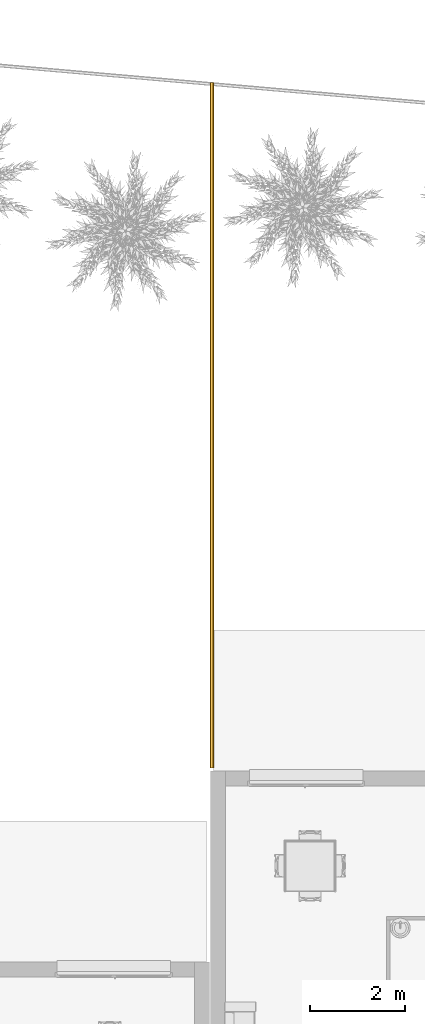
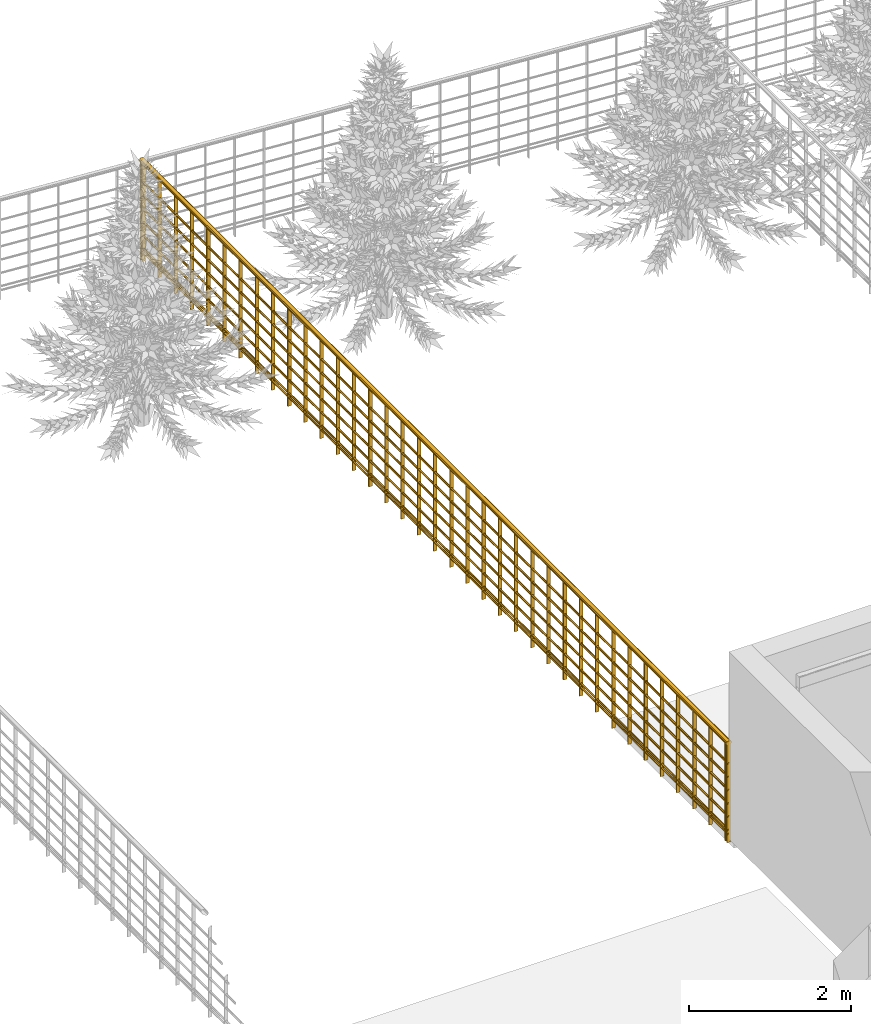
# One storey, part 28 of 33: 1 railing.
"""IFC2X3 building model written with IfcOpenShell, lengths in metres."""

from ifc_helpers import new_model, entity, si_unit, converted_unit, derived_unit, direction, frame, frame_2d, origin, origin_2d_with_axis, place, context, subcontext, project, spatial, polyline, rectangle, circle, outline, extrude, material, material_list, element, save


model = new_model("IFC2X3")

# Units and contexts
model_context = context("Model", 3, precision=1e-05, world=origin(), true_north=direction((6.12303176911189e-17, 1.0)))
context_of_model = context(None, 3, precision=1e-05, world=origin(), true_north=direction((6.12303176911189e-17, 1.0)))
body_context = subcontext(model_context, "Body", "Model", "MODEL_VIEW")
ifc_project = project(units=[si_unit("LENGTHUNIT", "METRE"), si_unit("AREAUNIT", "SQUARE_METRE"), si_unit("VOLUMEUNIT", "CUBIC_METRE"), converted_unit("PLANEANGLEUNIT", "DEGREE", entity("IfcRatioMeasure", 0.0174532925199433), si_unit("PLANEANGLEUNIT", "RADIAN"), dimensions=[0, 0, 0, 0, 0, 0, 0]), si_unit("MASSUNIT", "GRAM", prefix="KILO"), si_unit("TIMEUNIT", "SECOND"), si_unit("FREQUENCYUNIT", "HERTZ"), si_unit("THERMODYNAMICTEMPERATUREUNIT", "DEGREE_CELSIUS"), derived_unit("THERMALTRANSMITTANCEUNIT", [(si_unit("MASSUNIT", "GRAM", prefix="KILO"), 1), (si_unit("THERMODYNAMICTEMPERATUREUNIT", "KELVIN"), -1), (si_unit("TIMEUNIT", "SECOND"), -3)]), derived_unit("VOLUMETRICFLOWRATEUNIT", [(si_unit("LENGTHUNIT", "METRE"), 3), (si_unit("TIMEUNIT", "SECOND"), -1)]), si_unit("ELECTRICCURRENTUNIT", "AMPERE"), si_unit("ELECTRICVOLTAGEUNIT", "VOLT"), si_unit("POWERUNIT", "WATT"), si_unit("FORCEUNIT", "NEWTON", prefix="KILO"), si_unit("ILLUMINANCEUNIT", "LUX"), si_unit("LUMINOUSFLUXUNIT", "LUMEN"), si_unit("LUMINOUSINTENSITYUNIT", "CANDELA"), si_unit("PRESSUREUNIT", "PASCAL")], contexts=[model_context, context_of_model])

# Site, building, storey
site_placement = place(None, origin())
site = spatial("IfcSite", under=ifc_project, at=site_placement, Name="Surface", CompositionType="ELEMENT")
building_placement = place(site_placement, origin())
building = spatial("IfcBuilding", under=site, at=building_placement, CompositionType="ELEMENT")
storey_placement = place(building_placement, origin())
storey = spatial("IfcBuildingStorey", under=building, at=storey_placement, Name="Plan des fondations  Maisons 1 et 2", CompositionType="ELEMENT", Elevation=0.0)

# Railing
ifc_material_1 = material(Name="Bois")
ifc_material_2 = material(Name="Finition Peinture Grise")
ifc_material_list = material_list([ifc_material_1, ifc_material_2])
railing_placement = place(building_placement, origin())
element("IfcRailing", 1, at=railing_placement, inside=storey, material=ifc_material_list, Name="Garde-corps:Type Bateau 1,50 m", ObjectType="Garde-corps:Type Bateau 1,50 m", PredefinedType="NOTDEFINED", context=body_context, shape_type="SweptSolid", body=[
    extrude(rectangle(XDim=0.0499999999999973, YDim=0.0139999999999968, at=frame_2d((4.32986979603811e-15, 0.0), x_axis=(1.0, 0.0))), frame((76.3372847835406, 106.978195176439, -0.1), z_axis=(0.0, 0.0, 1.0), x_axis=(-1.0, 0.0, 0.0)), (0.0, 0.0, 1.0), 1.46984653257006),
    extrude(rectangle(XDim=0.0499999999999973, YDim=0.0139999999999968, at=frame_2d((4.32986979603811e-15, 0.0), x_axis=(1.0, 0.0))), frame((76.3372847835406, 106.578195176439, -0.1), z_axis=(0.0, 0.0, 1.0), x_axis=(-1.0, 0.0, 0.0)), (0.0, 0.0, 1.0), 1.46984653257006),
    extrude(rectangle(XDim=0.0499999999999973, YDim=0.0139999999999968, at=frame_2d((4.32986979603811e-15, 0.0), x_axis=(1.0, 0.0))), frame((76.3372847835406, 106.178195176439, -0.1), z_axis=(0.0, 0.0, 1.0), x_axis=(-1.0, 0.0, 0.0)), (0.0, 0.0, 1.0), 1.46984653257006),
    extrude(rectangle(XDim=0.0499999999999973, YDim=0.0139999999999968, at=frame_2d((4.32986979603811e-15, 0.0), x_axis=(1.0, 0.0))), frame((76.3372847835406, 105.778195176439, -0.1), z_axis=(0.0, 0.0, 1.0), x_axis=(-1.0, 0.0, 0.0)), (0.0, 0.0, 1.0), 1.46984653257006),
    extrude(rectangle(XDim=0.0499999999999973, YDim=0.0139999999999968, at=frame_2d((4.32986979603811e-15, 0.0), x_axis=(1.0, 0.0))), frame((76.3372847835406, 105.378195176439, -0.1), z_axis=(0.0, 0.0, 1.0), x_axis=(-1.0, 0.0, 0.0)), (0.0, 0.0, 1.0), 1.46984653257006),
    extrude(rectangle(XDim=0.0499999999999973, YDim=0.0139999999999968, at=frame_2d((4.32986979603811e-15, 0.0), x_axis=(1.0, 0.0))), frame((76.3372847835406, 104.978195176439, -0.1), z_axis=(0.0, 0.0, 1.0), x_axis=(-1.0, 0.0, 0.0)), (0.0, 0.0, 1.0), 1.46984653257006),
    extrude(rectangle(XDim=0.0499999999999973, YDim=0.0139999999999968, at=frame_2d((-4.32986979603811e-15, 1.73259843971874e-14), x_axis=(1.0, 0.0))), frame((76.3372847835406, 104.578195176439, -0.1), z_axis=(0.0, 0.0, 1.0), x_axis=(-1.0, 0.0, 0.0)), (0.0, 0.0, 1.0), 1.46984653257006),
    extrude(rectangle(XDim=0.0499999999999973, YDim=0.0139999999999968, at=frame_2d((-4.32986979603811e-15, 0.0), x_axis=(1.0, 0.0))), frame((76.3372847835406, 104.178195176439, -0.1), z_axis=(0.0, 0.0, 1.0), x_axis=(-1.0, 0.0, 0.0)), (0.0, 0.0, 1.0), 1.46984653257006),
    extrude(rectangle(XDim=0.0499999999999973, YDim=0.0139999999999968, at=frame_2d((-4.32986979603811e-15, 0.0), x_axis=(1.0, 0.0))), frame((76.3372847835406, 103.778195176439, -0.1), z_axis=(0.0, 0.0, 1.0), x_axis=(-1.0, 0.0, 0.0)), (0.0, 0.0, 1.0), 1.46984653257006),
    extrude(rectangle(XDim=0.0499999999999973, YDim=0.0139999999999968, at=frame_2d((-4.32986979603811e-15, 0.0), x_axis=(1.0, 0.0))), frame((76.3372847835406, 103.378195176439, -0.1), z_axis=(0.0, 0.0, 1.0), x_axis=(-1.0, 0.0, 0.0)), (0.0, 0.0, 1.0), 1.46984653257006),
    extrude(rectangle(XDim=0.0499999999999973, YDim=0.0139999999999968, at=frame_2d((-4.32986979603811e-15, 0.0), x_axis=(1.0, 0.0))), frame((76.3372847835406, 102.978195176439, -0.1), z_axis=(0.0, 0.0, 1.0), x_axis=(-1.0, 0.0, 0.0)), (0.0, 0.0, 1.0), 1.46984653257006),
    extrude(rectangle(XDim=0.0499999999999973, YDim=0.0139999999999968, at=frame_2d((-4.32986979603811e-15, 0.0), x_axis=(1.0, 0.0))), frame((76.3372847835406, 102.578195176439, -0.1), z_axis=(0.0, 0.0, 1.0), x_axis=(-1.0, 0.0, 0.0)), (0.0, 0.0, 1.0), 1.46984653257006),
    extrude(rectangle(XDim=0.0499999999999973, YDim=0.0139999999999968, at=frame_2d((-4.32986979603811e-15, 0.0), x_axis=(1.0, 0.0))), frame((76.3372847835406, 102.178195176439, -0.1), z_axis=(0.0, 0.0, 1.0), x_axis=(-1.0, 0.0, 0.0)), (0.0, 0.0, 1.0), 1.46984653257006),
    extrude(rectangle(XDim=0.0499999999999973, YDim=0.0139999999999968, at=frame_2d((-4.32986979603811e-15, 0.0), x_axis=(1.0, 0.0))), frame((76.3372847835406, 101.778195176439, -0.1), z_axis=(0.0, 0.0, 1.0), x_axis=(-1.0, 0.0, 0.0)), (0.0, 0.0, 1.0), 1.46984653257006),
    extrude(rectangle(XDim=0.0499999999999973, YDim=0.0139999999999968, at=frame_2d((-4.32986979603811e-15, 0.0), x_axis=(1.0, 0.0))), frame((76.3372847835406, 101.378195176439, -0.1), z_axis=(0.0, 0.0, 1.0), x_axis=(-1.0, 0.0, 0.0)), (0.0, 0.0, 1.0), 1.46984653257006),
    extrude(rectangle(XDim=0.0499999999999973, YDim=0.0139999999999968, at=frame_2d((-4.32986979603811e-15, 0.0), x_axis=(1.0, 0.0))), frame((76.3372847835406, 100.978195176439, -0.1), z_axis=(0.0, 0.0, 1.0), x_axis=(-1.0, 0.0, 0.0)), (0.0, 0.0, 1.0), 1.46984653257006),
    extrude(rectangle(XDim=0.0499999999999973, YDim=0.0139999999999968, at=frame_2d((-4.32986979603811e-15, 0.0), x_axis=(1.0, 0.0))), frame((76.3372847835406, 100.578195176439, -0.1), z_axis=(0.0, 0.0, 1.0), x_axis=(-1.0, 0.0, 0.0)), (0.0, 0.0, 1.0), 1.46984653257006),
    extrude(rectangle(XDim=0.0499999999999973, YDim=0.0139999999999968, at=frame_2d((-4.32986979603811e-15, 0.0), x_axis=(1.0, 0.0))), frame((76.3372847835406, 100.178195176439, -0.1), z_axis=(0.0, 0.0, 1.0), x_axis=(-1.0, 0.0, 0.0)), (0.0, 0.0, 1.0), 1.46984653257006),
    extrude(rectangle(XDim=0.0499999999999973, YDim=0.0139999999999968, at=frame_2d((4.32986979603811e-15, 0.0), x_axis=(1.0, 0.0))), frame((76.3372847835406, 99.7781951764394, -0.1), z_axis=(0.0, 0.0, 1.0), x_axis=(-1.0, 0.0, 0.0)), (0.0, 0.0, 1.0), 1.46984653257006),
    extrude(rectangle(XDim=0.0499999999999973, YDim=0.0139999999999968, at=frame_2d((4.32986979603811e-15, 0.0), x_axis=(1.0, 0.0))), frame((76.3372847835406, 99.3781951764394, -0.1), z_axis=(0.0, 0.0, 1.0), x_axis=(-1.0, 0.0, 0.0)), (0.0, 0.0, 1.0), 1.46984653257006),
    extrude(rectangle(XDim=0.0499999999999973, YDim=0.0139999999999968, at=frame_2d((4.32986979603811e-15, 0.0), x_axis=(1.0, 0.0))), frame((76.3372847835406, 98.9781951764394, -0.1), z_axis=(0.0, 0.0, 1.0), x_axis=(-1.0, 0.0, 0.0)), (0.0, 0.0, 1.0), 1.46984653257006),
    extrude(rectangle(XDim=0.0499999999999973, YDim=0.0139999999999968, at=frame_2d((4.32986979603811e-15, 0.0), x_axis=(1.0, 0.0))), frame((76.3372847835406, 98.5781951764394, -0.1), z_axis=(0.0, 0.0, 1.0), x_axis=(-1.0, 0.0, 0.0)), (0.0, 0.0, 1.0), 1.46984653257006),
    extrude(rectangle(XDim=0.0499999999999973, YDim=0.0139999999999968, at=frame_2d((4.32986979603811e-15, 0.0), x_axis=(1.0, 0.0))), frame((76.3372847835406, 98.1781951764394, -0.1), z_axis=(0.0, 0.0, 1.0), x_axis=(-1.0, 0.0, 0.0)), (0.0, 0.0, 1.0), 1.46984653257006),
    extrude(rectangle(XDim=0.0499999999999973, YDim=0.0139999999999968, at=frame_2d((4.32986979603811e-15, 0.0), x_axis=(1.0, 0.0))), frame((76.3372847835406, 97.7781951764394, -0.1), z_axis=(0.0, 0.0, 1.0), x_axis=(-1.0, 0.0, 0.0)), (0.0, 0.0, 1.0), 1.46984653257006),
    extrude(rectangle(XDim=0.0499999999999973, YDim=0.0139999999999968, at=frame_2d((4.32986979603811e-15, 0.0), x_axis=(1.0, 0.0))), frame((76.3372847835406, 97.3781951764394, -0.1), z_axis=(0.0, 0.0, 1.0), x_axis=(-1.0, 0.0, 0.0)), (0.0, 0.0, 1.0), 1.46984653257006),
    extrude(rectangle(XDim=0.0499999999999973, YDim=0.0139999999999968, at=frame_2d((4.32986979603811e-15, 0.0), x_axis=(1.0, 0.0))), frame((76.3372847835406, 96.9781951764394, -0.1), z_axis=(0.0, 0.0, 1.0), x_axis=(-1.0, 0.0, 0.0)), (0.0, 0.0, 1.0), 1.46984653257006),
    extrude(rectangle(XDim=0.0499999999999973, YDim=0.0139999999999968, at=frame_2d((4.32986979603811e-15, 0.0), x_axis=(1.0, 0.0))), frame((76.3372847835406, 96.5781951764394, -0.1), z_axis=(0.0, 0.0, 1.0), x_axis=(-1.0, 0.0, 0.0)), (0.0, 0.0, 1.0), 1.46984653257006),
    extrude(rectangle(XDim=0.0499999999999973, YDim=0.0139999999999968, at=frame_2d((4.32986979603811e-15, 0.0), x_axis=(1.0, 0.0))), frame((76.3372847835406, 96.1781951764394, -0.1), z_axis=(0.0, 0.0, 1.0), x_axis=(-1.0, 0.0, 0.0)), (0.0, 0.0, 1.0), 1.46984653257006),
    extrude(rectangle(XDim=0.0499999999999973, YDim=0.0139999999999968, at=frame_2d((4.32986979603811e-15, 0.0), x_axis=(1.0, 0.0))), frame((76.3372847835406, 95.7781951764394, -0.1), z_axis=(0.0, 0.0, 1.0), x_axis=(-1.0, 0.0, 0.0)), (0.0, 0.0, 1.0), 1.46984653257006),
    extrude(rectangle(XDim=0.0499999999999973, YDim=0.0139999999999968, at=frame_2d((4.32986979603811e-15, 0.0), x_axis=(1.0, 0.0))), frame((76.3372847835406, 95.3781951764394, -0.1), z_axis=(0.0, 0.0, 1.0), x_axis=(-1.0, 0.0, 0.0)), (0.0, 0.0, 1.0), 1.46984653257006),
    extrude(rectangle(XDim=0.0499999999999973, YDim=0.0139999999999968, at=frame_2d((-4.32986979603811e-15, 0.0), x_axis=(1.0, 0.0))), frame((76.3372847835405, 94.9781951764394, -0.1), z_axis=(0.0, 0.0, 1.0), x_axis=(-1.0, 0.0, 0.0)), (0.0, 0.0, 1.0), 1.46984653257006),
    extrude(rectangle(XDim=0.0499999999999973, YDim=0.0139999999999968, at=frame_2d((-4.32986979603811e-15, 0.0), x_axis=(1.0, 0.0))), frame((76.3372847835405, 94.5781951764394, -0.1), z_axis=(0.0, 0.0, 1.0), x_axis=(-1.0, 0.0, 0.0)), (0.0, 0.0, 1.0), 1.46984653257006),
    extrude(rectangle(XDim=0.0499999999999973, YDim=0.0139999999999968, at=frame_2d((-4.32986979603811e-15, 0.0), x_axis=(1.0, 0.0))), frame((76.3372847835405, 94.1781951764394, -0.1), z_axis=(0.0, 0.0, 1.0), x_axis=(-1.0, 0.0, 0.0)), (0.0, 0.0, 1.0), 1.46984653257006),
    extrude(rectangle(XDim=0.0499999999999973, YDim=0.0139999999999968, at=frame_2d((-4.32986979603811e-15, 0.0), x_axis=(1.0, 0.0))), frame((76.3372847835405, 93.7781951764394, -0.1), z_axis=(0.0, 0.0, 1.0), x_axis=(-1.0, 0.0, 0.0)), (0.0, 0.0, 1.0), 1.46984653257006),
    extrude(rectangle(XDim=0.0499999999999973, YDim=0.0139999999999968, at=frame_2d((-4.32986979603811e-15, 0.0), x_axis=(1.0, 0.0))), frame((76.3372847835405, 93.3781951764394, -0.1), z_axis=(0.0, 0.0, 1.0), x_axis=(-1.0, 0.0, 0.0)), (0.0, 0.0, 1.0), 1.46984653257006),
    extrude(rectangle(XDim=0.0499999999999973, YDim=0.0139999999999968, at=frame_2d((-4.32986979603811e-15, 0.0), x_axis=(1.0, 0.0))), frame((76.3372847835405, 92.9781951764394, -0.1), z_axis=(0.0, 0.0, 1.0), x_axis=(-1.0, 0.0, 0.0)), (0.0, 0.0, 1.0), 1.46984653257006),
    extrude(rectangle(XDim=0.0499999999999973, YDim=0.0139999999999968, at=frame_2d((-4.32986979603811e-15, 0.0), x_axis=(1.0, 0.0))), frame((76.3372847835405, 92.5781951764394, -0.1), z_axis=(0.0, 0.0, 1.0), x_axis=(-1.0, 0.0, 0.0)), (0.0, 0.0, 1.0), 1.46984653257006),
    extrude(rectangle(XDim=0.0499999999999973, YDim=0.0139999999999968, at=frame_2d((4.32986979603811e-15, 1.73259843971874e-14), x_axis=(1.0, 0.0))), frame((76.3372847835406, 107.018195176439, -0.1), z_axis=(0.0, 0.0, 1.0), x_axis=(-1.0, 0.0, 0.0)), (0.0, 0.0, 1.0), 1.46984653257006),
    extrude(rectangle(XDim=0.0499999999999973, YDim=0.0139999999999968, at=frame_2d((-4.32986979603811e-15, 0.0), x_axis=(1.0, 0.0))), frame((76.3372847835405, 92.5381951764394, -0.1), z_axis=(0.0, 0.0, 1.0), x_axis=(-1.0, 0.0, 0.0)), (0.0, 0.0, 1.0), 1.46984653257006),
    extrude(outline(polyline([(-0.0109067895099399, -0.0384843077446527), (0.00177588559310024, -0.0384843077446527), (0.0141514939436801, -0.0318300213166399), (0.024080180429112, -0.0196720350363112), (0.0298451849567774, -0.0041125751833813), (0.0304496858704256, 0.0121579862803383), (0.0257891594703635, 0.0263263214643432), (0.0166694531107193, 0.0359425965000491), (0.0109067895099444, 0.0384843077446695), (-0.00177588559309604, 0.0384843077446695), (-0.0141514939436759, 0.0318300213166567), (-0.0240801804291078, 0.0196720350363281), (-0.0298451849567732, 0.00411257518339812), (-0.0304496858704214, -0.0121579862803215), (-0.0257891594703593, -0.0263263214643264), (-0.0166694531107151, -0.0359425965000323), (-0.0109067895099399, -0.0384843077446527)])), frame((76.3367857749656, 92.5270160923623, 1.4), z_axis=(0.0, 1.0, 0.0), x_axis=(0.27266973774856, 0.0, 0.962107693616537)), (0.0, 0.0, 1.0), 14.5),
    extrude(circle(Radius=0.015, at=origin_2d_with_axis()), frame((76.3367857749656, 92.5270160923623, 0.025), z_axis=(0.0, 1.0, 0.0), x_axis=(1.0, 0.0, 0.0)), (0.0, 0.0, 1.0), 14.5),
    extrude(circle(Radius=0.015, at=origin_2d_with_axis()), frame((76.3367857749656, 92.5270160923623, 1.085), z_axis=(0.0, 1.0, 0.0), x_axis=(1.0, 0.0, 0.0)), (0.0, 0.0, 1.0), 14.5),
    extrude(circle(Radius=0.015, at=origin_2d_with_axis()), frame((76.3367857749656, 92.5270160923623, 0.885), z_axis=(0.0, 1.0, 0.0), x_axis=(1.0, 0.0, 0.0)), (0.0, 0.0, 1.0), 14.5),
    extrude(circle(Radius=0.015, at=origin_2d_with_axis()), frame((76.3367857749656, 92.5270160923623, 0.685), z_axis=(0.0, 1.0, 0.0), x_axis=(1.0, 0.0, 0.0)), (0.0, 0.0, 1.0), 14.5),
    extrude(circle(Radius=0.015, at=origin_2d_with_axis()), frame((76.3367857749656, 92.5270160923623, 0.485), z_axis=(0.0, 1.0, 0.0), x_axis=(1.0, 0.0, 0.0)), (0.0, 0.0, 1.0), 14.5),
    extrude(circle(Radius=0.015, at=origin_2d_with_axis()), frame((76.3367857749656, 92.5270160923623, 0.285), z_axis=(0.0, 1.0, 0.0), x_axis=(1.0, 0.0, 0.0)), (0.0, 0.0, 1.0), 14.5),
    extrude(circle(Radius=0.015, at=origin_2d_with_axis()), frame((76.3367857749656, 92.5270160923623, 0.085), z_axis=(0.0, 1.0, 0.0), x_axis=(1.0, 0.0, 0.0)), (0.0, 0.0, 1.0), 14.5),
])

save(model, "model.ifc")
